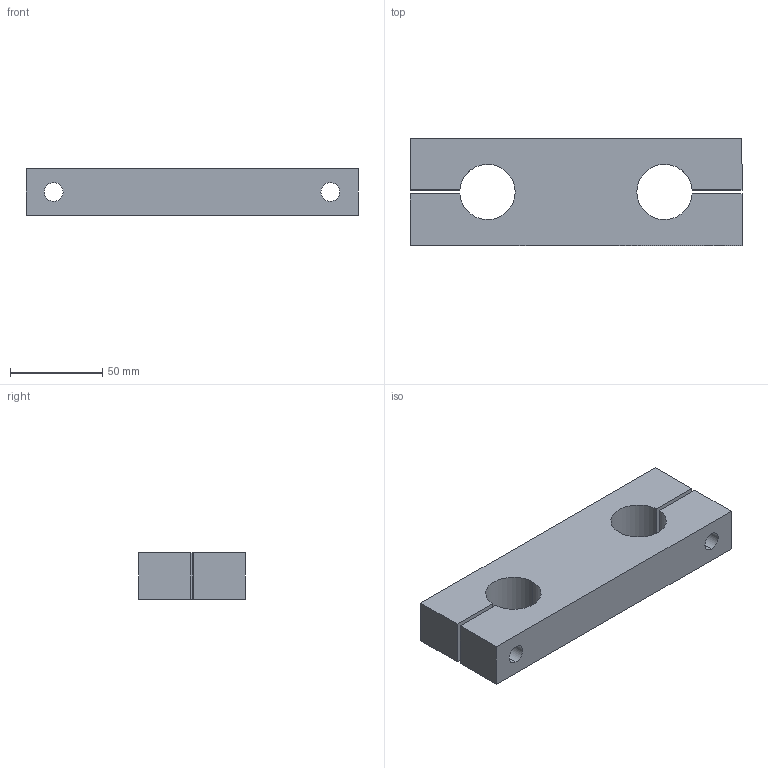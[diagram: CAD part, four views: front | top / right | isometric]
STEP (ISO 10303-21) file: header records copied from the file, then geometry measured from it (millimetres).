
FILE_DESCRIPTION (( 'STEP AP214' ), '1' );
FILE_NAME ('KTB-30.step', '2020-03-04T13:38:44', ( '' ), ( '' ), 'SwSTEP 2.0', 'SolidWorks 2019', '' );
FILE_SCHEMA (( 'AUTOMOTIVE_DESIGN' ));
Length unit declared in the file: millimetre
Products named in the file (1): KTB-30
Bounding box: 180 x 58 x 25 mm (x, y, z)
Volume: 204469.1 mm3; surface area: 40891.8 mm2
Topology: 1 solids, 1 shells, 41 faces, 101 edges, 65 vertices
Faces by surface type: cylinder 21, plane 16, cone 4
Entity records: 1307 total; most frequent: DIRECTION 227, CARTESIAN_POINT 206, ORIENTED_EDGE 198, EDGE_CURVE 99, AXIS2_PLACEMENT_3D 86, VERTEX_POINT 65, LINE 55, VECTOR 55
